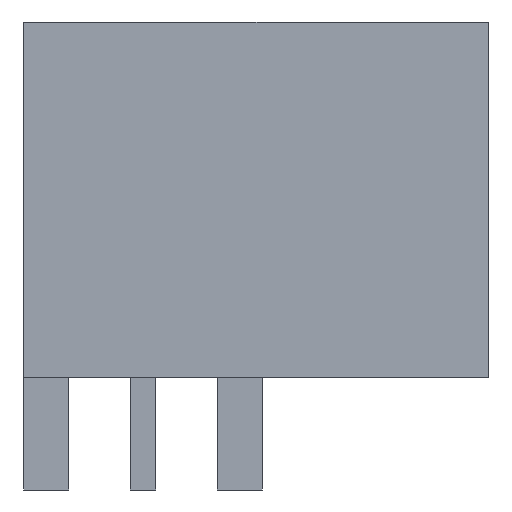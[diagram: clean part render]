
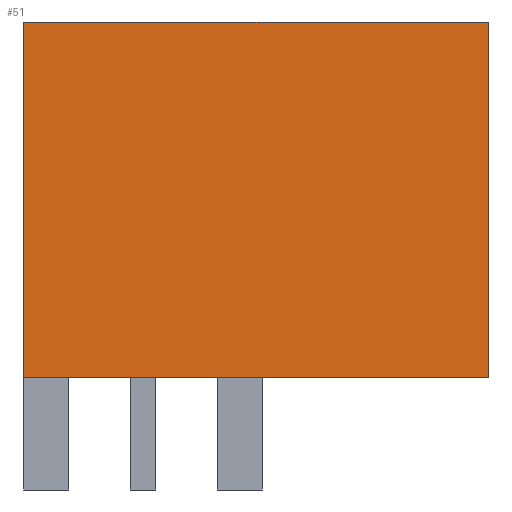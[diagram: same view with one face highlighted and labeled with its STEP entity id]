
A CAD part, left-side view. The second image highlights one B-rep face of the part: STEP entity #51.
In plain terms, the highlighted planar face has unit normal (-1, 0, 0).
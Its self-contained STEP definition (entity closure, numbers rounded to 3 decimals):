
#51 = ADVANCED_FACE('',(#52),#66,.F.);
#52 = FACE_BOUND('',#53,.F.);
#53 = EDGE_LOOP('',(#54,#89,#117,#145));
#54 = ORIENTED_EDGE('',*,*,#55,.F.);
#55 = EDGE_CURVE('',#56,#58,#60,.T.);
#56 = VERTEX_POINT('',#57);
#57 = CARTESIAN_POINT('',(-4.5,-13.7,0.));
#58 = VERTEX_POINT('',#59);
#59 = CARTESIAN_POINT('',(-4.5,-13.7,11.));
#60 = SURFACE_CURVE('',#61,(#65,#77),.PCURVE_S1.);
#61 = LINE('',#62,#63);
#62 = CARTESIAN_POINT('',(-4.5,-13.7,0.));
#63 = VECTOR('',#64,1.);
#64 = DIRECTION('',(0.,0.,1.));
#65 = PCURVE('',#66,#71);
#66 = PLANE('',#67);
#67 = AXIS2_PLACEMENT_3D('',#68,#69,#70);
#68 = CARTESIAN_POINT('',(-4.5,-13.7,0.));
#69 = DIRECTION('',(1.,0.,0.));
#70 = DIRECTION('',(0.,0.,1.));
#71 = DEFINITIONAL_REPRESENTATION('',(#72),#76);
#72 = LINE('',#73,#74);
#73 = CARTESIAN_POINT('',(0.,0.));
#74 = VECTOR('',#75,1.);
#75 = DIRECTION('',(1.,0.));
#76 = ( GEOMETRIC_REPRESENTATION_CONTEXT(2) 
PARAMETRIC_REPRESENTATION_CONTEXT() REPRESENTATION_CONTEXT('2D SPACE',''
  ) );
#77 = PCURVE('',#78,#83);
#78 = PLANE('',#79);
#79 = AXIS2_PLACEMENT_3D('',#80,#81,#82);
#80 = CARTESIAN_POINT('',(-4.5,-13.7,0.));
#81 = DIRECTION('',(0.,1.,0.));
#82 = DIRECTION('',(0.,0.,1.));
#83 = DEFINITIONAL_REPRESENTATION('',(#84),#88);
#84 = LINE('',#85,#86);
#85 = CARTESIAN_POINT('',(0.,0.));
#86 = VECTOR('',#87,1.);
#87 = DIRECTION('',(1.,0.));
#88 = ( GEOMETRIC_REPRESENTATION_CONTEXT(2) 
PARAMETRIC_REPRESENTATION_CONTEXT() REPRESENTATION_CONTEXT('2D SPACE',''
  ) );
#89 = ORIENTED_EDGE('',*,*,#90,.T.);
#90 = EDGE_CURVE('',#56,#91,#93,.T.);
#91 = VERTEX_POINT('',#92);
#92 = CARTESIAN_POINT('',(-4.5,0.7,0.));
#93 = SURFACE_CURVE('',#94,(#98,#105),.PCURVE_S1.);
#94 = LINE('',#95,#96);
#95 = CARTESIAN_POINT('',(-4.5,-13.7,0.));
#96 = VECTOR('',#97,1.);
#97 = DIRECTION('',(0.,1.,0.));
#98 = PCURVE('',#66,#99);
#99 = DEFINITIONAL_REPRESENTATION('',(#100),#104);
#100 = LINE('',#101,#102);
#101 = CARTESIAN_POINT('',(0.,0.));
#102 = VECTOR('',#103,1.);
#103 = DIRECTION('',(0.,-1.));
#104 = ( GEOMETRIC_REPRESENTATION_CONTEXT(2) 
PARAMETRIC_REPRESENTATION_CONTEXT() REPRESENTATION_CONTEXT('2D SPACE',''
  ) );
#105 = PCURVE('',#106,#111);
#106 = PLANE('',#107);
#107 = AXIS2_PLACEMENT_3D('',#108,#109,#110);
#108 = CARTESIAN_POINT('',(-4.5,-13.7,0.));
#109 = DIRECTION('',(0.,0.,1.));
#110 = DIRECTION('',(1.,0.,0.));
#111 = DEFINITIONAL_REPRESENTATION('',(#112),#116);
#112 = LINE('',#113,#114);
#113 = CARTESIAN_POINT('',(0.,0.));
#114 = VECTOR('',#115,1.);
#115 = DIRECTION('',(0.,1.));
#116 = ( GEOMETRIC_REPRESENTATION_CONTEXT(2) 
PARAMETRIC_REPRESENTATION_CONTEXT() REPRESENTATION_CONTEXT('2D SPACE',''
  ) );
#117 = ORIENTED_EDGE('',*,*,#118,.T.);
#118 = EDGE_CURVE('',#91,#119,#121,.T.);
#119 = VERTEX_POINT('',#120);
#120 = CARTESIAN_POINT('',(-4.5,0.7,11.));
#121 = SURFACE_CURVE('',#122,(#126,#133),.PCURVE_S1.);
#122 = LINE('',#123,#124);
#123 = CARTESIAN_POINT('',(-4.5,0.7,0.));
#124 = VECTOR('',#125,1.);
#125 = DIRECTION('',(0.,0.,1.));
#126 = PCURVE('',#66,#127);
#127 = DEFINITIONAL_REPRESENTATION('',(#128),#132);
#128 = LINE('',#129,#130);
#129 = CARTESIAN_POINT('',(0.,-14.4));
#130 = VECTOR('',#131,1.);
#131 = DIRECTION('',(1.,0.));
#132 = ( GEOMETRIC_REPRESENTATION_CONTEXT(2) 
PARAMETRIC_REPRESENTATION_CONTEXT() REPRESENTATION_CONTEXT('2D SPACE',''
  ) );
#133 = PCURVE('',#134,#139);
#134 = PLANE('',#135);
#135 = AXIS2_PLACEMENT_3D('',#136,#137,#138);
#136 = CARTESIAN_POINT('',(-4.5,0.7,0.));
#137 = DIRECTION('',(0.,1.,0.));
#138 = DIRECTION('',(0.,0.,1.));
#139 = DEFINITIONAL_REPRESENTATION('',(#140),#144);
#140 = LINE('',#141,#142);
#141 = CARTESIAN_POINT('',(0.,0.));
#142 = VECTOR('',#143,1.);
#143 = DIRECTION('',(1.,0.));
#144 = ( GEOMETRIC_REPRESENTATION_CONTEXT(2) 
PARAMETRIC_REPRESENTATION_CONTEXT() REPRESENTATION_CONTEXT('2D SPACE',''
  ) );
#145 = ORIENTED_EDGE('',*,*,#146,.F.);
#146 = EDGE_CURVE('',#58,#119,#147,.T.);
#147 = SURFACE_CURVE('',#148,(#152,#159),.PCURVE_S1.);
#148 = LINE('',#149,#150);
#149 = CARTESIAN_POINT('',(-4.5,-13.7,11.));
#150 = VECTOR('',#151,1.);
#151 = DIRECTION('',(0.,1.,0.));
#152 = PCURVE('',#66,#153);
#153 = DEFINITIONAL_REPRESENTATION('',(#154),#158);
#154 = LINE('',#155,#156);
#155 = CARTESIAN_POINT('',(11.,0.));
#156 = VECTOR('',#157,1.);
#157 = DIRECTION('',(0.,-1.));
#158 = ( GEOMETRIC_REPRESENTATION_CONTEXT(2) 
PARAMETRIC_REPRESENTATION_CONTEXT() REPRESENTATION_CONTEXT('2D SPACE',''
  ) );
#159 = PCURVE('',#160,#165);
#160 = PLANE('',#161);
#161 = AXIS2_PLACEMENT_3D('',#162,#163,#164);
#162 = CARTESIAN_POINT('',(-4.5,-13.7,11.));
#163 = DIRECTION('',(0.,0.,1.));
#164 = DIRECTION('',(1.,0.,0.));
#165 = DEFINITIONAL_REPRESENTATION('',(#166),#170);
#166 = LINE('',#167,#168);
#167 = CARTESIAN_POINT('',(0.,0.));
#168 = VECTOR('',#169,1.);
#169 = DIRECTION('',(0.,1.));
#170 = ( GEOMETRIC_REPRESENTATION_CONTEXT(2) 
PARAMETRIC_REPRESENTATION_CONTEXT() REPRESENTATION_CONTEXT('2D SPACE',''
  ) );
